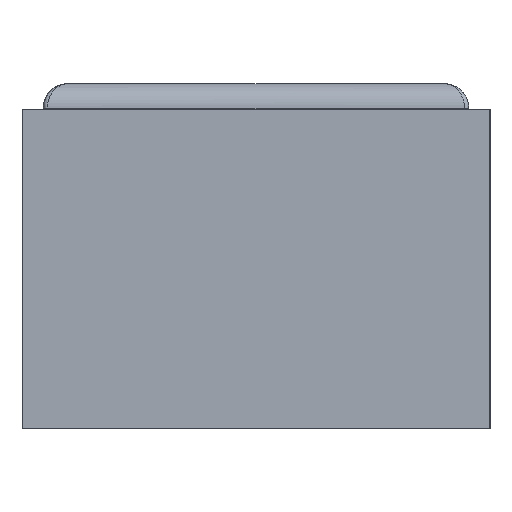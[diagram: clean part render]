
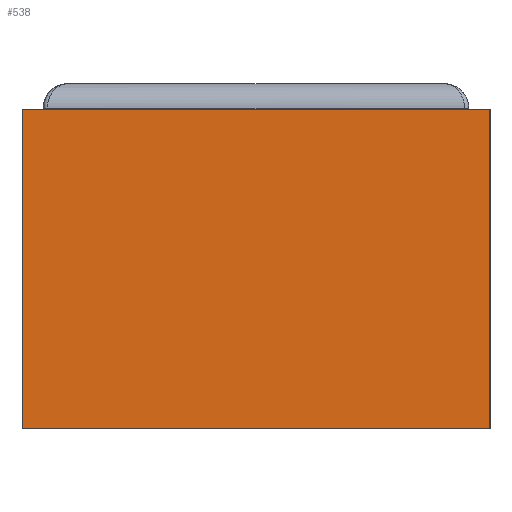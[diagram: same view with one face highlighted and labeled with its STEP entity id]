
A CAD part, left-side view. The second image highlights one B-rep face of the part: STEP entity #538.
In plain terms, the highlighted planar face has unit normal (-1, 0, 0).
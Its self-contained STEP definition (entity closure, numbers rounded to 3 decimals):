
#26 = CARTESIAN_POINT ( 'NONE',  ( -35., -11., -7.5 ) ) ;
#38 = CARTESIAN_POINT ( 'NONE',  ( -35., 11., 7.5 ) ) ;
#77 = DIRECTION ( 'NONE',  ( 0., 0., -1. ) ) ;
#186 = VERTEX_POINT ( 'NONE', #1370 ) ;
#210 = ORIENTED_EDGE ( 'NONE', *, *, #697, .F. ) ;
#219 = CARTESIAN_POINT ( 'NONE',  ( -35., 11., 7.5 ) ) ;
#435 = DIRECTION ( 'NONE',  ( 0., 0., 1. ) ) ;
#454 = VERTEX_POINT ( 'NONE', #1984 ) ;
#499 = CARTESIAN_POINT ( 'NONE',  ( -35., 11., 7.5 ) ) ;
#523 = EDGE_CURVE ( 'NONE', #1758, #1423, #1387, .T. ) ;
#538 = ADVANCED_FACE ( 'NONE', ( #1324 ), #953, .F. ) ;
#559 = ORIENTED_EDGE ( 'NONE', *, *, #523, .F. ) ;
#582 = LINE ( 'NONE', #26, #614 ) ;
#614 = VECTOR ( 'NONE', #1475, 1000. ) ;
#645 = LINE ( 'NONE', #1467, #653 ) ;
#653 = VECTOR ( 'NONE', #2482, 1000. ) ;
#697 = EDGE_CURVE ( 'NONE', #186, #1758, #931, .T. ) ;
#716 = EDGE_CURVE ( 'NONE', #454, #1423, #645, .T. ) ;
#724 = VECTOR ( 'NONE', #435, 1000. ) ;
#727 = EDGE_CURVE ( 'NONE', #186, #454, #582, .T. ) ;
#931 = LINE ( 'NONE', #219, #724 ) ;
#953 = PLANE ( 'NONE',  #2633 ) ;
#1102 = CARTESIAN_POINT ( 'NONE',  ( -35., -11., 7.5 ) ) ;
#1209 = CARTESIAN_POINT ( 'NONE',  ( -35., 11., 7.5 ) ) ;
#1324 = FACE_OUTER_BOUND ( 'NONE', #2476, .T. ) ;
#1335 = DIRECTION ( 'NONE',  ( 1., 0., 0. ) ) ;
#1356 = VECTOR ( 'NONE', #2091, 1000. ) ;
#1370 = CARTESIAN_POINT ( 'NONE',  ( -35., 11., -7.5 ) ) ;
#1387 = LINE ( 'NONE', #38, #1356 ) ;
#1423 = VERTEX_POINT ( 'NONE', #1102 ) ;
#1467 = CARTESIAN_POINT ( 'NONE',  ( -35., -11., 7.5 ) ) ;
#1475 = DIRECTION ( 'NONE',  ( 0., -1., 0. ) ) ;
#1758 = VERTEX_POINT ( 'NONE', #1209 ) ;
#1984 = CARTESIAN_POINT ( 'NONE',  ( -35., -11., -7.5 ) ) ;
#2038 = ORIENTED_EDGE ( 'NONE', *, *, #716, .T. ) ;
#2091 = DIRECTION ( 'NONE',  ( 0., -1., 0. ) ) ;
#2118 = ORIENTED_EDGE ( 'NONE', *, *, #727, .T. ) ;
#2476 = EDGE_LOOP ( 'NONE', ( #2038, #559, #210, #2118 ) ) ;
#2482 = DIRECTION ( 'NONE',  ( 0., 0., 1. ) ) ;
#2633 = AXIS2_PLACEMENT_3D ( 'NONE', #499, #1335, #77 ) ;
